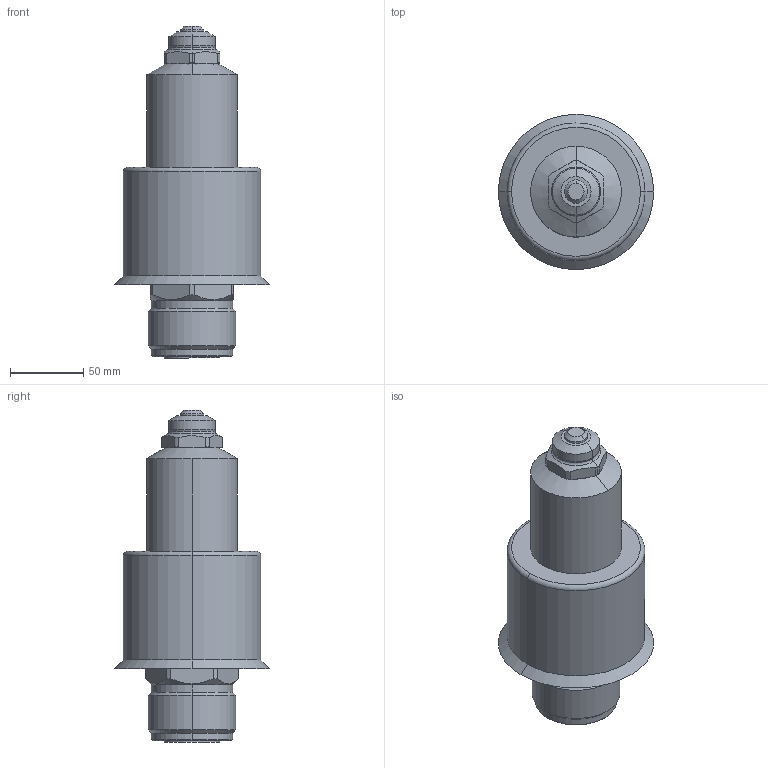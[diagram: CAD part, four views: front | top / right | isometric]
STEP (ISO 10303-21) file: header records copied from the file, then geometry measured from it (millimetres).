
FILE_DESCRIPTION (( 'STEP AP214' ), '1' );
FILE_NAME ('T24_OPEN_161_BAND_RD.STEP', '2016-09-09T13:25:52', ( '' ), ( '' ), 'SwSTEP 2.0', 'SolidWorks 2015', '' );
FILE_SCHEMA (( 'AUTOMOTIVE_DESIGN' ));
Length unit declared in the file: millimetre
Products named in the file (1): T24_OPEN_161_BAND_RD
Bounding box: 106 x 106 x 226.51 mm (x, y, z)
Volume: 1283045 mm3; surface area: 102479.1 mm2
Topology: 2 solids, 2 shells, 279 faces, 690 edges, 427 vertices
Faces by surface type: cylinder 99, plane 92, torus 47, cone 37, sphere 2, bspline 2
Entity records: 12144 total; most frequent: CARTESIAN_POINT 2329, DIRECTION 1480, ORIENTED_EDGE 1376, EDGE_CURVE 688, AXIS2_PLACEMENT_3D 592, VERTEX_POINT 427, CIRCLE 314, EDGE_LOOP 297
